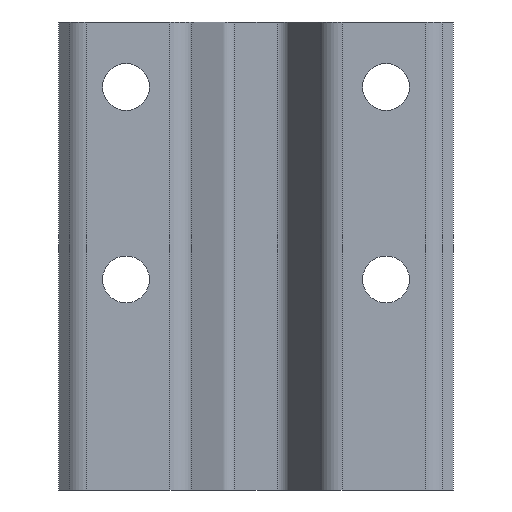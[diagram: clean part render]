
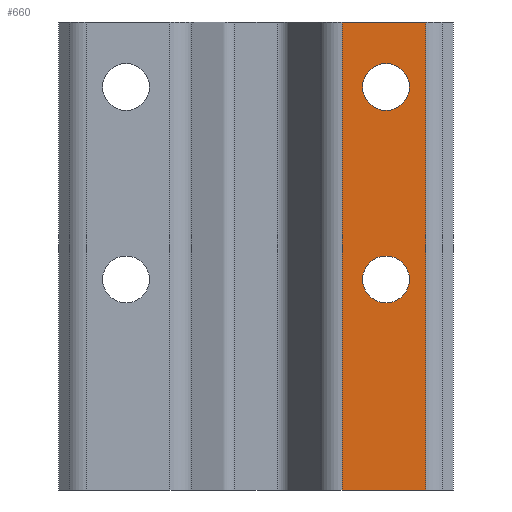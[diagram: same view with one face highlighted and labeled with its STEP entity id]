
A CAD part, front view. The second image highlights one B-rep face of the part: STEP entity #660.
In plain terms, the highlighted planar face has unit normal (0, -1, 0).
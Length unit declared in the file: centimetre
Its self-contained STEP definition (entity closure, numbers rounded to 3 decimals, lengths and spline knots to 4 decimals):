
#18=FACE_BOUND('',#93,.T.);
#19=FACE_BOUND('',#94,.T.);
#30=PLANE('',#712);
#56=FACE_OUTER_BOUND('',#92,.T.);
#92=EDGE_LOOP('',(#496,#497,#498,#499));
#93=EDGE_LOOP('',(#500));
#94=EDGE_LOOP('',(#501));
#144=LINE('',#1032,#208);
#145=LINE('',#1036,#209);
#146=LINE('',#1038,#210);
#147=LINE('',#1039,#211);
#208=VECTOR('',#834,0.1);
#209=VECTOR('',#839,0.1);
#210=VECTOR('',#840,0.1);
#211=VECTOR('',#841,0.1);
#249=CIRCLE('',#687,0.9);
#251=CIRCLE('',#690,0.9);
#281=VERTEX_POINT('',#956);
#283=VERTEX_POINT('',#962);
#306=VERTEX_POINT('',#1029);
#307=VERTEX_POINT('',#1031);
#308=VERTEX_POINT('',#1035);
#309=VERTEX_POINT('',#1037);
#347=EDGE_CURVE('',#281,#281,#249,.T.);
#350=EDGE_CURVE('',#283,#283,#251,.T.);
#383=EDGE_CURVE('',#307,#306,#144,.T.);
#385=EDGE_CURVE('',#306,#308,#145,.T.);
#386=EDGE_CURVE('',#309,#308,#146,.T.);
#387=EDGE_CURVE('',#309,#307,#147,.T.);
#496=ORIENTED_EDGE('',*,*,#385,.T.);
#497=ORIENTED_EDGE('',*,*,#386,.F.);
#498=ORIENTED_EDGE('',*,*,#387,.T.);
#499=ORIENTED_EDGE('',*,*,#383,.T.);
#500=ORIENTED_EDGE('',*,*,#347,.T.);
#501=ORIENTED_EDGE('',*,*,#350,.T.);
#660=ADVANCED_FACE('',(#56,#18,#19),#30,.T.);
#687=AXIS2_PLACEMENT_3D('',#958,#762,#763);
#690=AXIS2_PLACEMENT_3D('',#964,#769,#770);
#712=AXIS2_PLACEMENT_3D('',#1034,#837,#838);
#762=DIRECTION('center_axis',(0.,1.,0.));
#763=DIRECTION('ref_axis',(1.,0.,0.));
#769=DIRECTION('center_axis',(0.,1.,0.));
#770=DIRECTION('ref_axis',(1.,0.,0.));
#834=DIRECTION('',(0.,0.,1.));
#837=DIRECTION('center_axis',(0.,-1.,0.));
#838=DIRECTION('ref_axis',(0.,0.,-1.));
#839=DIRECTION('',(-1.,0.,0.));
#840=DIRECTION('',(0.,0.,1.));
#841=DIRECTION('',(1.,0.,0.));
#956=CARTESIAN_POINT('',(8.1042,95.6396,15.5));
#958=CARTESIAN_POINT('Origin',(9.0042,95.6396,15.5));
#962=CARTESIAN_POINT('',(8.1042,95.6396,8.1));
#964=CARTESIAN_POINT('Origin',(9.0042,95.6396,8.1));
#1029=CARTESIAN_POINT('',(10.5294,95.6396,18.));
#1031=CARTESIAN_POINT('',(10.5294,95.6396,0.));
#1032=CARTESIAN_POINT('',(10.5294,95.6396,0.));
#1034=CARTESIAN_POINT('Origin',(10.5294,95.6396,0.));
#1035=CARTESIAN_POINT('',(7.315,95.6396,18.));
#1036=CARTESIAN_POINT('',(7.315,95.6396,18.));
#1037=CARTESIAN_POINT('',(7.315,95.6396,0.));
#1038=CARTESIAN_POINT('',(7.315,95.6396,0.));
#1039=CARTESIAN_POINT('',(7.315,95.6396,0.));
